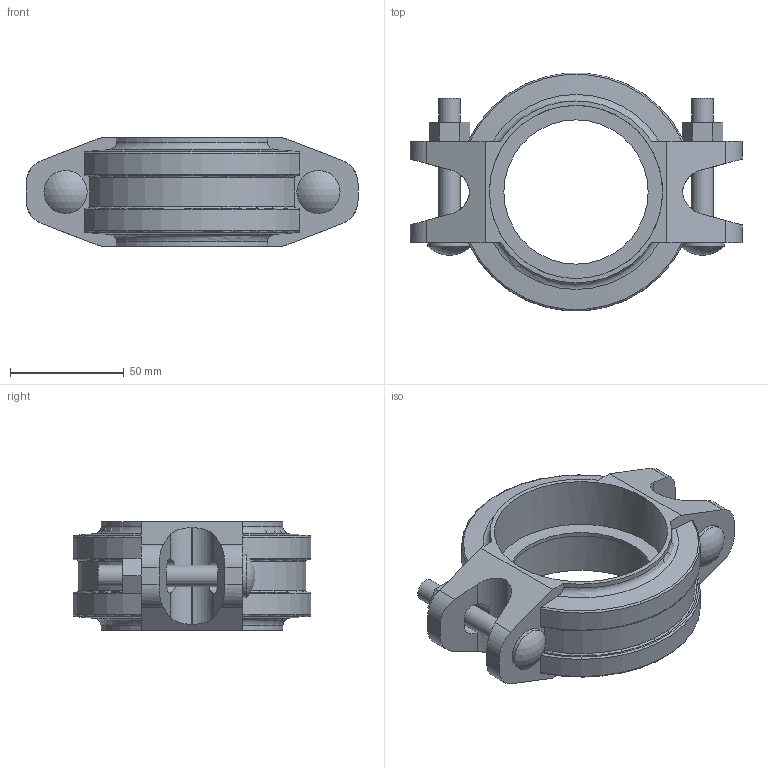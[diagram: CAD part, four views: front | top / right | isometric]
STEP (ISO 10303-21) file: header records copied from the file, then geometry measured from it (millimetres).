
FILE_DESCRIPTION(/* description */ ('VIC STYLE 005H FIRELOCK RIGID COUPLING','CAx-IF Rec.Pracs.---Representation and Presentation of Product Manufacturing Information (PMI)---4.0---2014-10-13'),/* implementation_level */ '2;1');
FILE_NAME(/* name */ 'C:\Users\Vjadhav\Desktop\CAD for Inventor\1\Coupling bolt thickness\005H\STEP\Victaulic_FP-FireLock_Coupling Rigid_Style 005H (OGS)\Victaulic_FP-FireLock_Coupling Rigid_Style 005H (OGS)_02.5 (76.1) (65).stp',/* time_stamp */ '2022-03-28T11:24:45+06:00',/* author */ ('jheald'),/* organization */ ('Victaulic'),/* preprocessor_version */ 'ST-DEVELOPER v17.2',/* originating_system */ 'Autodesk Inventor 2019',/* authorisation */ '');
FILE_SCHEMA (('AP242_MANAGED_MODEL_BASED_3D_ENGINEERING_MIM_LF { 1 0 10303 442 1 1 4 }'));
Length unit declared in the file: inch
Products named in the file (1): 005H-02.5 (76.1)
Bounding box: 146.05 x 104.51 x 47.75 mm (x, y, z)
Volume: 191760.6 mm3; surface area: 49652 mm2
Topology: 1 solids, 1 shells, 117 faces, 345 edges, 234 vertices
Faces by surface type: plane 56, cylinder 39, torus 16, cone 4, sphere 2
Full cylindrical faces by diameter (mm): 9.525 x4, 19.05 x2, 63.5 x1, 76.2 x2
Entity records: 4508 total; most frequent: CARTESIAN_POINT 1090, ORIENTED_EDGE 690, DIRECTION 673, EDGE_CURVE 345, AXIS2_PLACEMENT_3D 245, VERTEX_POINT 234, LINE 183, VECTOR 183
